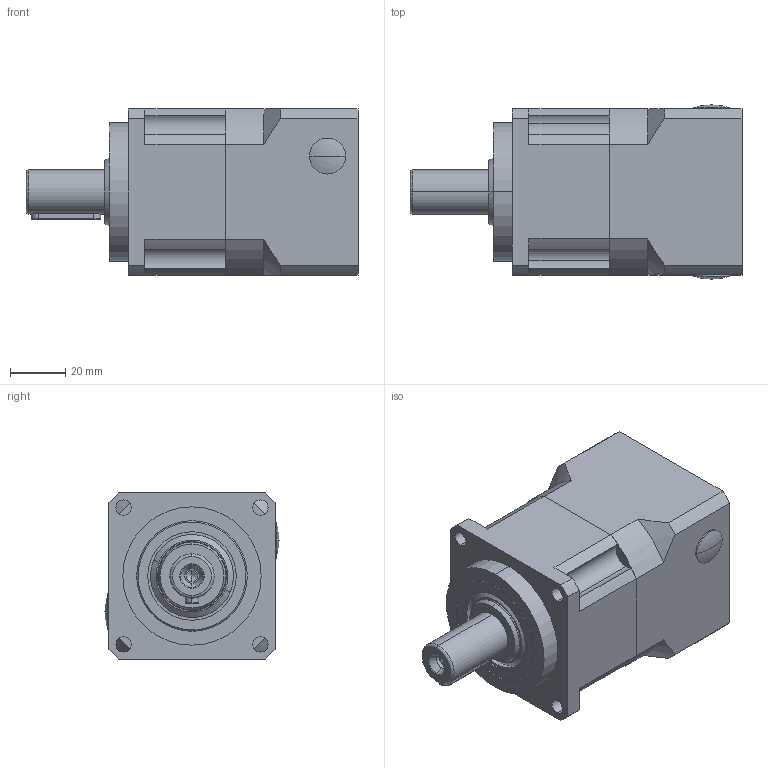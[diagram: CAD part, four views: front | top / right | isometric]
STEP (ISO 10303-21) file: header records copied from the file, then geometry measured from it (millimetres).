
FILE_DESCRIPTION (( 'STEP AP203' ), '1' );
FILE_NAME ('060-L1-14-50-70-M4.STEP', '2020-06-08T08:57:22', ( 'ylmfeng' ), ( 'ylmfeng.com' ), 'SwSTEP 2.0', 'SolidWorks 2014', '' );
FILE_SCHEMA (( 'CONFIG_CONTROL_DESIGN' ));
Length unit declared in the file: millimetre
Products named in the file (1): 060-L1-14-50-70-M4
Bounding box: 120 x 63 x 60 mm (x, y, z)
Volume: 261472.9 mm3; surface area: 63502 mm2
Topology: 15 solids, 16 shells, 446 faces, 1100 edges, 693 vertices
Faces by surface type: plane 158, cylinder 154, cone 70, torus 36, bspline 28
Entity records: 14389 total; most frequent: CARTESIAN_POINT 3768, DIRECTION 2259, ORIENTED_EDGE 2168, EDGE_CURVE 1084, AXIS2_PLACEMENT_3D 899, VERTEX_POINT 693, EDGE_LOOP 499, CIRCLE 480
